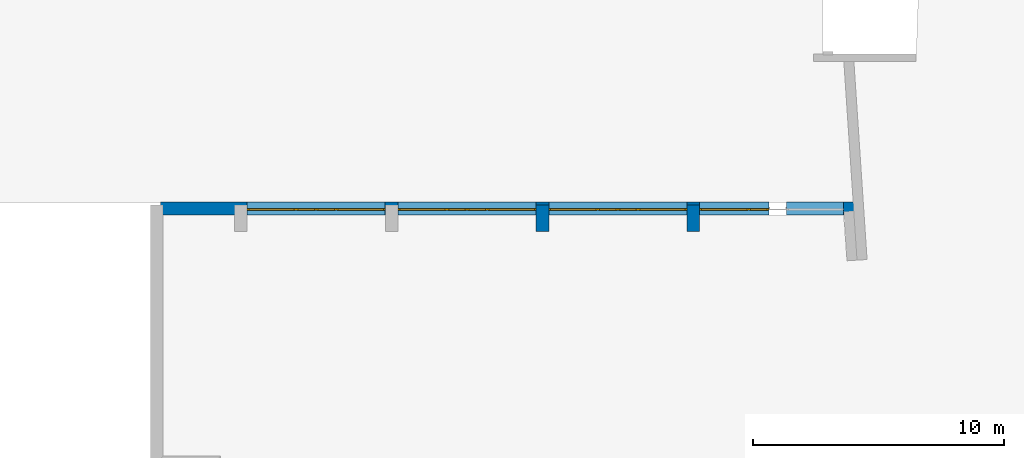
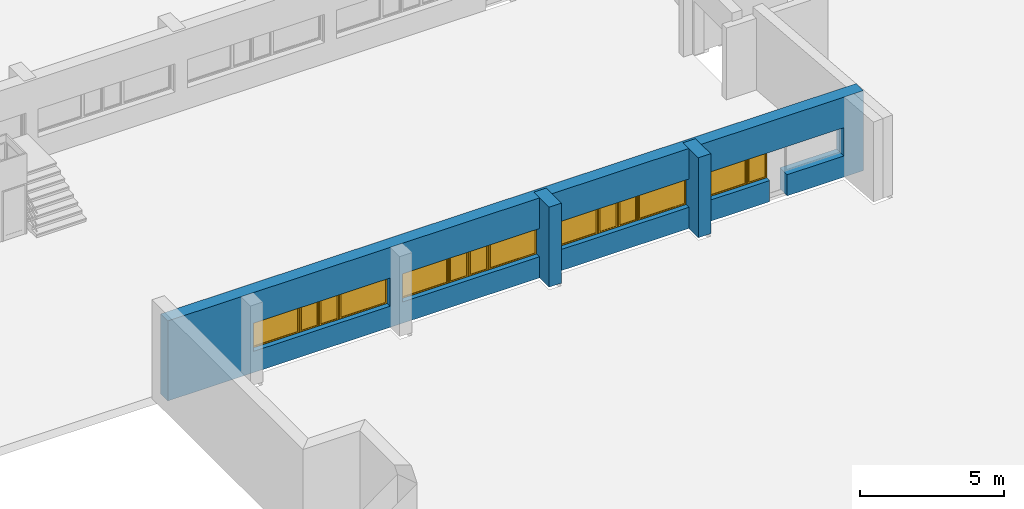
# One storey, part 12 of 36: 7 windows, 3 walls, 9 openings.
"""IFC2X3 building model written with IfcOpenShell, lengths in millimetres."""

import ifcopenshell
import ifcopenshell.guid

model = None  # the IFC model being written
_history = None  # IfcOwnerHistory: only IFC2X3 demands one
_inside = {}  # id of a spatial element -> (the spatial element, [elements in it])
_under = {}  # id of a project, library or spatial element -> (it, [spatial elements below it])
_declared = {}  # id of a project -> (the project, [libraries it declares])
_typed = {}  # id of a type object -> (the type object, [elements of that type])
_made_of = {}  # id of a material, layer set ... -> (it, [elements and type objects made of it])


def new_model(schema):
    """Start an empty IFC model of exactly this schema.

    Asked for "IFC4X3", IfcOpenShell would pick the latest addendum, in which some entities
    have other attributes; the version numbers below select the first issue.
    IFC2X3 requires an IfcOwnerHistory on every rooted entity: one is made here for all.
    """
    global model, _history
    if schema == "IFC4X3":
        model = ifcopenshell.file(schema_version=(4, 3, 0, 0))
    else:
        model = ifcopenshell.file(schema=schema)
    _inside.clear()
    _under.clear()
    _declared.clear()
    _typed.clear()
    _made_of.clear()
    _history = None
    if model.schema == "IFC2X3":
        org = make("IfcOrganization", Name="unknown")
        user = make(
            "IfcPersonAndOrganization",
            ThePerson=make("IfcPerson", FamilyName="unknown"),
            TheOrganization=org,
        )
        app = make(
            "IfcApplication",
            ApplicationDeveloper=org,
            Version="unknown",
            ApplicationFullName="unknown",
            ApplicationIdentifier="unknown",
        )
        _history = make(
            "IfcOwnerHistory",
            OwningUser=user,
            OwningApplication=app,
            ChangeAction="ADDED",
            CreationDate=0,
        )
    return model


def make(cls, **values):
    """One entity of the class cls with the attributes given. An attribute that is None is left unset."""
    return model.create_entity(
        cls, **{name: value for name, value in values.items() if value is not None}
    )


def entity(cls, *values):
    """Any entity or typed value of the class cls, its attributes in the order of the schema. None: left unset."""
    e = model.create_entity(cls)
    for i, value in enumerate(values):
        if value is not None:
            e[i] = value
    return e


def rooted(cls, **values):
    """An entity with a GlobalId (a new one), such as an element, a storey or a relation."""
    return make(cls, GlobalId=ifcopenshell.guid.new(), OwnerHistory=_history, **values)


def si_unit(unit_type, name, prefix=None):
    """IfcSIUnit, for example si_unit("LENGTHUNIT", "METRE", prefix="MILLI")."""
    return make("IfcSIUnit", UnitType=unit_type, Prefix=prefix, Name=name)


def converted_unit(unit_type, name, factor, base, dimensions=None, offset=None):
    """IfcConversionBasedUnit, such as the inch: factor (a typed value) times the base unit."""
    return make(
        "IfcConversionBasedUnit"
        if offset is None
        else "IfcConversionBasedUnitWithOffset",
        ConversionOffset=offset,
        Dimensions=None
        if dimensions is None
        else entity("IfcDimensionalExponents", *dimensions),
        UnitType=unit_type,
        Name=name,
        ConversionFactor=make(
            "IfcMeasureWithUnit", ValueComponent=factor, UnitComponent=base
        ),
    )


def money_unit(currency):
    """IfcMonetaryUnit."""
    return make("IfcMonetaryUnit", Currency=currency)


def assignment(units):
    """IfcUnitAssignment: the units of a project."""
    return None if units is None else make("IfcUnitAssignment", Units=units)


def point(xyz):
    """IfcCartesianPoint."""
    return None if xyz is None else make("IfcCartesianPoint", Coordinates=xyz)


def direction(xyz):
    """IfcDirection."""
    return None if xyz is None else make("IfcDirection", DirectionRatios=xyz)


def frame(location, z_axis=None, x_axis=None):
    """IfcAxis2Placement3D, a coordinate frame: its origin and axes. An axis left out is left unset."""
    return make(
        "IfcAxis2Placement3D",
        Location=point(location),
        Axis=direction(z_axis),
        RefDirection=direction(x_axis),
    )


def origin_with_axes():
    """The frame at (0, 0, 0) with the z axis (0, 0, 1) and the x axis (1, 0, 0) written out."""
    return frame((0.0, 0.0, 0.0), z_axis=(0.0, 0.0, 1.0), x_axis=(1.0, 0.0, 0.0))


def place(relative_to, where):
    """IfcLocalPlacement: puts the frame where relative to a parent placement (None: the world)."""
    return make(
        "IfcLocalPlacement", PlacementRelTo=relative_to, RelativePlacement=where
    )


def context(
    kind, dimensions, precision=None, world=None, true_north=None, identifier=None
):
    """IfcGeometricRepresentationContext, for example the 3D "Model" context."""
    return make(
        "IfcGeometricRepresentationContext",
        ContextIdentifier=identifier,
        ContextType=kind,
        CoordinateSpaceDimension=dimensions,
        Precision=precision,
        WorldCoordinateSystem=world,
        TrueNorth=true_north,
    )


def subcontext(parent, identifier, kind, view, scale=None):
    """IfcGeometricRepresentationSubContext, for example "Body" below "Model"."""
    return make(
        "IfcGeometricRepresentationSubContext",
        ContextIdentifier=identifier,
        ContextType=kind,
        ParentContext=parent,
        TargetScale=scale,
        TargetView=view,
    )


def project(units=None, contexts=None):
    """IfcProject with its units and contexts."""
    return rooted(
        "IfcProject",
        Name="project",
        RepresentationContexts=contexts,
        UnitsInContext=assignment(units),
    )


def spatial(cls, under=None, at=None, **own):
    """A site, building, storey or space (cls), placed at a placement, below another one or the project."""
    s = rooted(cls, ObjectPlacement=at, **own)
    if under is not None:
        _under.setdefault(under.id(), (under, []))[1].append(s)
    return s


def polyline(points):
    """IfcPolyline through the points."""
    return make("IfcPolyline", Points=[point(p) for p in points])


def outline(outer, holes=None, kind="AREA"):
    """IfcArbitraryClosedProfileDef: a profile drawn as a closed curve; with holes, ...WithVoids."""
    if holes is None:
        return make("IfcArbitraryClosedProfileDef", ProfileType=kind, OuterCurve=outer)
    return make(
        "IfcArbitraryProfileDefWithVoids",
        ProfileType=kind,
        OuterCurve=outer,
        InnerCurves=holes,
    )


def extrude(swept, where, along, depth):
    """IfcExtrudedAreaSolid: the profile swept, set in the frame where, extruded along a direction by depth."""
    return make(
        "IfcExtrudedAreaSolid",
        SweptArea=swept,
        Position=where,
        ExtrudedDirection=direction(along),
        Depth=depth,
    )


def faces_of(points, faces, orient=None, outer=None):
    """IfcFace entities. A face is a list of loops; a loop is a list of indices into points, from 0.

    orient and outer hold one flag for each loop. By default every Orientation is true, the
    first loop of a face is its IfcFaceOuterBound and the others are IfcFaceBound.
    """
    made = []
    for i, loops in enumerate(faces):
        bounds = []
        for j, loop in enumerate(loops):
            is_outer = j == 0 if outer is None else outer[i][j]
            bounds.append(
                make(
                    "IfcFaceOuterBound" if is_outer else "IfcFaceBound",
                    Bound=make("IfcPolyLoop", Polygon=[points[k] for k in loop]),
                    Orientation=True if orient is None else orient[i][j],
                )
            )
        made.append(make("IfcFace", Bounds=bounds))
    return made


def open_shell(faces, orient=None, outer=None):
    """The faces of one IfcOpenShell. surface_model builds it on its shared points."""
    return ("IfcOpenShell", faces, orient, outer)


def faceted_brep(points, faces, orient=None, outer=None, voids=None):
    """IfcFacetedBrep: a solid bounded by flat faces; with voids (closed shells), ...WithVoids."""
    shared = [point(p) for p in points]
    hull = make("IfcClosedShell", CfsFaces=faces_of(shared, faces, orient, outer))
    if voids is None:
        return make("IfcFacetedBrep", Outer=hull)
    return make(
        "IfcFacetedBrepWithVoids",
        Outer=hull,
        Voids=[
            make(cls, CfsFaces=faces_of(shared, fs, o, b)) for cls, fs, o, b in voids
        ],
    )


def surface_model(cls, points, shells):
    """IfcFaceBasedSurfaceModel or IfcShellBasedSurfaceModel (cls): surfaces that need not close."""
    shared = [point(p) for p in points]
    made = [make(c, CfsFaces=faces_of(shared, fs, o, b)) for c, fs, o, b in shells]
    if cls == "IfcFaceBasedSurfaceModel":
        return make(cls, FbsmFaces=made)
    return make(cls, SbsmBoundary=made)


def shape(context_of_items, identifier, shape_type, items):
    """IfcShapeRepresentation: the items that make up one representation, for example the "Body"."""
    return make(
        "IfcShapeRepresentation",
        ContextOfItems=context_of_items,
        RepresentationIdentifier=identifier,
        RepresentationType=shape_type,
        Items=items,
    )


def source(mapping_origin, context_of_items, identifier, shape_type, items):
    """IfcRepresentationMap: a shape defined once, which mapped items show again and again."""
    return make(
        "IfcRepresentationMap",
        MappingOrigin=mapping_origin,
        MappedRepresentation=shape(context_of_items, identifier, shape_type, items),
    )


def transform(
    local_origin,
    x_axis=None,
    y_axis=None,
    z_axis=None,
    scale=None,
    scale2=None,
    scale3=None,
    uniform=True,
):
    """IfcCartesianTransformationOperator3D, or its non-uniform kind. x_axis, y_axis, z_axis: its Axis1, 2, 3."""
    if uniform:
        return make(
            "IfcCartesianTransformationOperator3D",
            Axis1=direction(x_axis),
            Axis2=direction(y_axis),
            LocalOrigin=point(local_origin),
            Scale=scale,
            Axis3=direction(z_axis),
        )
    return make(
        "IfcCartesianTransformationOperator3DnonUniform",
        Axis1=direction(x_axis),
        Axis2=direction(y_axis),
        LocalOrigin=point(local_origin),
        Scale=scale,
        Axis3=direction(z_axis),
        Scale2=scale2,
        Scale3=scale3,
    )


def mapped(mapping_source, mapping_target):
    """IfcMappedItem: shows the shape of a source again, moved by a transform."""
    return make(
        "IfcMappedItem", MappingSource=mapping_source, MappingTarget=mapping_target
    )


def material(Name=None, Category=None):
    """IfcMaterial."""
    return make("IfcMaterial", Name=Name, Category=Category)


def material_list(materials):
    """IfcMaterialList."""
    return make("IfcMaterialList", Materials=materials)


def layer(
    of_material, thickness, ventilated=None, Name=None, Category=None, Priority=None
):
    """IfcMaterialLayer: one layer of a wall or slab, of a material (None: an air gap)."""
    return make(
        "IfcMaterialLayer",
        Material=of_material,
        LayerThickness=thickness,
        IsVentilated=ventilated,
        Name=Name,
        Category=Category,
        Priority=Priority,
    )


def layer_set(layers, Name=None):
    """IfcMaterialLayerSet."""
    return make("IfcMaterialLayerSet", MaterialLayers=layers, LayerSetName=Name)


def layer_usage(for_layer_set, set_direction, sense, offset, extent=None):
    """IfcMaterialLayerSetUsage: how a layer set lies in its element."""
    return make(
        "IfcMaterialLayerSetUsage",
        ForLayerSet=for_layer_set,
        LayerSetDirection=set_direction,
        DirectionSense=sense,
        OffsetFromReferenceLine=offset,
        ReferenceExtent=extent,
    )


def made_of(thing, what):
    """Note that an element or type object is made of a material, layer set ...; save() writes the relation."""
    if what is not None:
        _made_of.setdefault(what.id(), (what, []))[1].append(thing)
    return thing


def type_object(cls, material=None, **own):
    """A type object (cls), such as IfcWallType, which elements share."""
    return made_of(rooted(cls, **own), material)


def element(
    cls,
    number,
    at=None,
    inside=None,
    cuts=None,
    type_object=None,
    material=None,
    context=None,
    identifier="Body",
    shape_type=None,
    held_by="IfcProductDefinitionShape",
    body=None,
    shapes=None,
    **own,
):
    """One element of the class cls, such as IfcWall. Its Tag is "e" and its number.

    at: its placement. inside: the storey or other place that contains it. cuts: it is an
    opening in that element (IfcRelVoidsElement). A single representation is given by context,
    identifier, shape_type and body (its items); several are given by shapes. held_by: the class
    of the entity that holds the representations. save() writes the other relations.
    """
    e = rooted(cls, Tag="e%d" % number, ObjectPlacement=at, **own)
    if body is not None:
        shapes = [shape(context, identifier, shape_type, body)]
    if shapes is not None:
        e.Representation = make(held_by, Representations=shapes)
    if inside is not None:
        _inside.setdefault(inside.id(), (inside, []))[1].append(e)
    if cuts is not None:
        rooted(
            "IfcRelVoidsElement", RelatingBuildingElement=cuts, RelatedOpeningElement=e
        )
    if type_object is not None:
        _typed.setdefault(type_object.id(), (type_object, []))[1].append(e)
    return made_of(e, material)


def fill(opening, filler):
    """IfcRelFillsElement: the door or window that sits in an opening."""
    return rooted(
        "IfcRelFillsElement",
        RelatingOpeningElement=opening,
        RelatedBuildingElement=filler,
    )


def aggregate(whole, parts):
    """IfcRelAggregates: a whole, such as a stair, and the parts it consists of."""
    return rooted("IfcRelAggregates", RelatingObject=whole, RelatedObjects=parts)


def save(model, path):
    """Write the relations noted so far, then the file.

    IfcRelAggregates (storeys below a building ...), IfcRelContainedInSpatialStructure (elements
    in a storey), IfcRelDefinesByType, IfcRelAssociatesMaterial and IfcRelDeclares: one each for
    every whole, place, type object, material and project.
    """
    for whole, parts in _under.values():
        aggregate(whole, parts)
    for where, things in _inside.values():
        rooted(
            "IfcRelContainedInSpatialStructure",
            RelatedElements=things,
            RelatingStructure=where,
        )
    for kind, things in _typed.values():
        rooted("IfcRelDefinesByType", RelatedObjects=things, RelatingType=kind)
    for what, things in _made_of.values():
        rooted("IfcRelAssociatesMaterial", RelatedObjects=things, RelatingMaterial=what)
    for by, libraries in _declared.values():
        rooted("IfcRelDeclares", RelatingContext=by, RelatedDefinitions=libraries)
    model.write(path)


model = new_model("IFC2X3")

# Units and contexts
model_context = context("Model", 3, precision=1e-05, world=origin_with_axes(), true_north=direction((0.0, 1.0)))
body_context = subcontext(model_context, "Body", "Model", "MODEL_VIEW")
ifc_project = project(units=[si_unit("LENGTHUNIT", "METRE", prefix="MILLI"), si_unit("AREAUNIT", "SQUARE_METRE"), si_unit("VOLUMEUNIT", "CUBIC_METRE"), converted_unit("PLANEANGLEUNIT", "DEGREE", entity("IfcPlaneAngleMeasure", 0.0174532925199), si_unit("PLANEANGLEUNIT", "RADIAN"), dimensions=[0, 0, 0, 0, 0, 0, 0]), si_unit("SOLIDANGLEUNIT", "STERADIAN"), money_unit("USD"), converted_unit("TIMEUNIT", "Year", entity("IfcTimeMeasure", 31556926.0), si_unit("TIMEUNIT", "SECOND"), dimensions=[0, 0, 0, 0, 0, 0, 0]), si_unit("MASSUNIT", "GRAM"), si_unit("THERMODYNAMICTEMPERATUREUNIT", "DEGREE_CELSIUS"), si_unit("LUMINOUSINTENSITYUNIT", "LUMEN")], contexts=[model_context])

# Site, building, storey
site_placement = place(None, origin_with_axes())
site = spatial("IfcSite", under=ifc_project, at=site_placement, Name="Site", CompositionType="ELEMENT")
building_placement = place(site_placement, origin_with_axes())
building = spatial("IfcBuilding", under=site, at=building_placement, Name="Building", CompositionType="ELEMENT")
storey_placement = place(building_placement, frame((0.0, 0.0, -3400.0), z_axis=(0.0, 0.0, 1.0), x_axis=(1.0, 0.0, 0.0)))
storey = spatial("IfcBuildingStorey", under=building, at=storey_placement, Name="1KORRUS", CompositionType="ELEMENT", Elevation=-3400.0)

# Wall, openings, windows
ifc_material_1 = material(Name="Olemasolevad seinad tellis, uus viimistlus")
ifc_layer = layer(ifc_material_1, 500.0, ventilated="UNKNOWN")
ifc_layer_set = layer_set([ifc_layer], Name="Olemasolevad seinad tellis, uus viimistlus 500")
ifc_layer_usage_1 = layer_usage(ifc_layer_set, "AXIS2", "POSITIVE", -400.0)
wall_type = type_object("IfcWallType", Name="Olemasolevad seinad tellis, uus viimistlus 500", PredefinedType="NOTDEFINED")
wall_1_placement = place(storey_placement, frame((-9331.84569337, -19738.87569, 0.0), z_axis=(0.0, 0.0, 1.0), x_axis=(1.0, 0.0, 0.0)))
wall_1 = element("IfcWallStandardCase", 1, at=wall_1_placement, inside=storey, type_object=wall_type, material=ifc_layer_usage_1, Name="VS1", ObjectType="VS1", context=body_context, shape_type="SweptSolid", body=[
    extrude(outline(polyline([(0.0, -400.0), (27956.8716013, -400.0), (27956.8716013, 100.0), (0.0, 100.0), (0.0, -400.0)])), origin_with_axes(), (0.0, 0.0, 1.0), 3400.0),
])
opening_1_placement = place(wall_1_placement, frame((19566.5489901, 0.0, 900.0), z_axis=(0.0, 0.0, 1.0), x_axis=(1.0, 0.0, 0.0)))
opening_1 = element("IfcOpeningElement", 2, at=opening_1_placement, cuts=wall_1, Name="Olemasolevad aknad jäävad", context=body_context, shape_type="SweptSolid", body=[
    extrude(outline(polyline([(-1375.0, 1200.0), (-1375.0, 0.0), (1375.0, 0.0), (1375.0, 1200.0), (-1375.0, 1200.0)])), frame((0.0, -200.0, 0.0), z_axis=(0.0, 1.0, 0.0), x_axis=(-1.0, 0.0, 0.0)), (0.0, 0.0, 1.0), 800.0),
    extrude(outline(polyline([(-1375.0, 0.0), (-1375.0, -1200.0), (1375.0, -1200.0), (1375.0, 0.0), (-1375.0, 0.0)])), frame((0.0, -200.0, 0.0), z_axis=(0.0, -1.0, 0.0), x_axis=(-1.0, 0.0, 0.0)), (0.0, 0.0, 1.0), 700.0),
])
opening_2_placement = place(wall_1_placement, frame((16816.5489901, 0.0, 900.0), z_axis=(0.0, 0.0, 1.0), x_axis=(1.0, 0.0, 0.0)))
opening_2 = element("IfcOpeningElement", 3, at=opening_2_placement, cuts=wall_1, Name="Olemasolevad aknad jäävad", context=body_context, shape_type="SweptSolid", body=[
    extrude(outline(polyline([(1375.0, 1200.0), (-1375.0, 1200.0), (-1375.0, 0.0), (1375.0, 0.0), (1375.0, 1200.0)])), frame((0.0, -200.0, 0.0), z_axis=(0.0, 1.0, 0.0), x_axis=(-1.0, 0.0, 0.0)), (0.0, 0.0, 1.0), 800.0),
    extrude(outline(polyline([(1375.0, 0.0), (-1375.0, 0.0), (-1375.0, -1200.0), (1375.0, -1200.0), (1375.0, 0.0)])), frame((0.0, -200.0, 0.0), z_axis=(0.0, -1.0, 0.0), x_axis=(-1.0, 0.0, 0.0)), (0.0, 0.0, 1.0), 700.0),
])
opening_3_placement = place(wall_1_placement, frame((13566.5489901, 0.0, 900.0), z_axis=(0.0, 0.0, 1.0), x_axis=(1.0, 0.0, 0.0)))
opening_3 = element("IfcOpeningElement", 4, at=opening_3_placement, cuts=wall_1, Name="Olemasolevad aknad jäävad", context=body_context, shape_type="SweptSolid", body=[
    extrude(outline(polyline([(-1375.0, 1200.0), (-1375.0, 0.0), (1375.0, 0.0), (1375.0, 1200.0), (-1375.0, 1200.0)])), frame((0.0, -200.0, 0.0), z_axis=(0.0, 1.0, 0.0), x_axis=(-1.0, 0.0, 0.0)), (0.0, 0.0, 1.0), 800.0),
    extrude(outline(polyline([(-1375.0, 0.0), (-1375.0, -1200.0), (1375.0, -1200.0), (1375.0, 0.0), (-1375.0, 0.0)])), frame((0.0, -200.0, 0.0), z_axis=(0.0, -1.0, 0.0), x_axis=(-1.0, 0.0, 0.0)), (0.0, 0.0, 1.0), 700.0),
])
opening_4_placement = place(wall_1_placement, frame((10816.5489901, 0.0, 900.0), z_axis=(0.0, 0.0, 1.0), x_axis=(1.0, 0.0, 0.0)))
opening_4 = element("IfcOpeningElement", 5, at=opening_4_placement, cuts=wall_1, Name="Olemasolevad aknad jäävad", context=body_context, shape_type="SweptSolid", body=[
    extrude(outline(polyline([(1375.0, 1200.0), (-1375.0, 1200.0), (-1375.0, 0.0), (1375.0, 0.0), (1375.0, 1200.0)])), frame((0.0, -200.0, 0.0), z_axis=(0.0, 1.0, 0.0), x_axis=(-1.0, 0.0, 0.0)), (0.0, 0.0, 1.0), 800.0),
    extrude(outline(polyline([(1375.0, 0.0), (-1375.0, 0.0), (-1375.0, -1200.0), (1375.0, -1200.0), (1375.0, 0.0)])), frame((0.0, -200.0, 0.0), z_axis=(0.0, -1.0, 0.0), x_axis=(-1.0, 0.0, 0.0)), (0.0, 0.0, 1.0), 700.0),
])
opening_5_placement = place(wall_1_placement, frame((7558.41773708, 0.0, 900.0), z_axis=(0.0, 0.0, 1.0), x_axis=(1.0, 0.0, 0.0)))
opening_5 = element("IfcOpeningElement", 6, at=opening_5_placement, cuts=wall_1, Name="Olemasolevad aknad jäävad", context=body_context, shape_type="SweptSolid", body=[
    extrude(outline(polyline([(-1375.0, 1200.0), (-1375.0, 0.0), (1375.0, 0.0), (1375.0, 1200.0), (-1375.0, 1200.0)])), frame((0.0, -200.0, 0.0), z_axis=(0.0, 1.0, 0.0), x_axis=(-1.0, 0.0, 0.0)), (0.0, 0.0, 1.0), 800.0),
    extrude(outline(polyline([(-1375.0, 0.0), (-1375.0, -1200.0), (1375.0, -1200.0), (1375.0, 0.0), (-1375.0, 0.0)])), frame((0.0, -200.0, 0.0), z_axis=(0.0, -1.0, 0.0), x_axis=(-1.0, 0.0, 0.0)), (0.0, 0.0, 1.0), 700.0),
])
opening_6_placement = place(wall_1_placement, frame((4816.54899006, 0.0, 900.0), z_axis=(0.0, 0.0, 1.0), x_axis=(1.0, 0.0, 0.0)))
opening_6 = element("IfcOpeningElement", 7, at=opening_6_placement, cuts=wall_1, Name="Olemasolevad aknad jäävad", context=body_context, shape_type="SweptSolid", body=[
    extrude(outline(polyline([(1375.0, 1200.0), (-1375.0, 1200.0), (-1375.0, 0.0), (1375.0, 0.0), (1375.0, 1200.0)])), frame((0.0, -200.0, 0.0), z_axis=(0.0, 1.0, 0.0), x_axis=(-1.0, 0.0, 0.0)), (0.0, 0.0, 1.0), 800.0),
    extrude(outline(polyline([(1375.0, 0.0), (-1375.0, 0.0), (-1375.0, -1200.0), (1375.0, -1200.0), (1375.0, 0.0)])), frame((0.0, -200.0, 0.0), z_axis=(0.0, -1.0, 0.0), x_axis=(-1.0, 0.0, 0.0)), (0.0, 0.0, 1.0), 700.0),
])
opening_7_placement = place(wall_1_placement, frame((22816.5489901, 0.0, 900.0), z_axis=(0.0, 0.0, 1.0), x_axis=(1.0, 0.0, 0.0)))
opening_7 = element("IfcOpeningElement", 8, at=opening_7_placement, cuts=wall_1, Name="Olemasolevad aknad jäävad", context=body_context, shape_type="SweptSolid", body=[
    extrude(outline(polyline([(1375.0, 1200.0), (-1375.0, 1200.0), (-1375.0, 0.0), (1375.0, 0.0), (1375.0, 1200.0)])), frame((0.0, -200.0, 0.0), z_axis=(0.0, 1.0, 0.0), x_axis=(-1.0, 0.0, 0.0)), (0.0, 0.0, 1.0), 800.0),
    extrude(outline(polyline([(1375.0, 0.0), (-1375.0, 0.0), (-1375.0, -1200.0), (1375.0, -1200.0), (1375.0, 0.0)])), frame((0.0, -200.0, 0.0), z_axis=(0.0, -1.0, 0.0), x_axis=(-1.0, 0.0, 0.0)), (0.0, 0.0, 1.0), 700.0),
])
opening_8_placement = place(wall_1_placement, frame((26032.4269663, 0.0, 900.0), z_axis=(0.0, 0.0, 1.0), x_axis=(1.0, 0.0, 0.0)))
element("IfcOpeningElement", 9, at=opening_8_placement, cuts=wall_1, Name="Olemasolevad aknad jäävad", context=body_context, shape_type="SweptSolid", body=[
    extrude(outline(polyline([(1140.806, 1200.0), (-1140.806, 1200.0), (-1140.806, 0.0), (1140.806, 0.0), (1140.806, 1200.0)])), frame((0.0, -200.0, 0.0), z_axis=(0.0, 1.0, 0.0), x_axis=(-1.0, 0.0, 0.0)), (0.0, 0.0, 1.0), 800.0),
    extrude(outline(polyline([(1140.806, 0.0), (-1140.806, 0.0), (-1140.806, -1200.0), (1140.806, -1200.0), (1140.806, 0.0)])), frame((0.0, -200.0, 0.0), z_axis=(0.0, -1.0, 0.0), x_axis=(-1.0, 0.0, 0.0)), (0.0, 0.0, 1.0), 700.0),
])
opening_9_placement = place(wall_1_placement, frame((24541.5489901, 0.0, -4.66441168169), z_axis=(0.0, 0.0, 1.0), x_axis=(1.0, 0.0, 0.0)))
element("IfcOpeningElement", 10, at=opening_9_placement, cuts=wall_1, Name="ava", context=body_context, shape_type="SweptSolid", body=[
    extrude(outline(polyline([(-350.0, 2100.0), (-350.0, 0.0), (350.0, 0.0), (350.0, 2100.0), (-350.0, 2100.0)])), frame((0.0, -200.0, 0.0), z_axis=(0.0, 1.0, 0.0), x_axis=(-1.0, 0.0, 0.0)), (0.0, 0.0, 1.0), 800.0),
    extrude(outline(polyline([(-350.0, 0.0), (-350.0, -2100.0), (350.0, -2100.0), (350.0, 0.0), (-350.0, 0.0)])), frame((0.0, -200.0, 0.0), z_axis=(0.0, -1.0, 0.0), x_axis=(-1.0, 0.0, 0.0)), (0.0, 0.0, 1.0), 700.0),
])
ifc_material_2 = material(Name="Background")
ifc_material_list = material_list([ifc_material_2])
window_style_1 = type_object("IfcWindowStyle", Name="Double Window 19", ConstructionType="NOTDEFINED", OperationType="DOUBLE_PANEL_VERTICAL", ParameterTakesPrecedence=False, Sizeable=False)
shared_shape_1 = source(origin_with_axes(), body_context, "Body", "SurfaceModel", [
    faceted_brep([(-1350.0, -200.0, 1150.0), (-1375.0, -200.0, 1150.0), (-1375.0, -250.0, 1150.0), (-1325.0, -250.0, 1150.0), (-1325.0, -225.0, 1150.0), (-1350.0, -225.0, 1150.0), (-1350.0, -200.0, 50.0), (-1375.0, -200.0, 50.0), (-1375.0, -250.0, 50.0), (-1325.0, -250.0, 50.0), (-1325.0, -225.0, 50.0), (-1350.0, -225.0, 50.0)], [[[0, 1, 2, 3, 4, 5]], [[6, 7, 1, 0]], [[1, 7, 8, 2]], [[2, 8, 9, 3]], [[4, 3, 9, 10]], [[10, 11, 5, 4]], [[5, 11, 6, 0]], [[11, 10, 9, 8, 7, 6]]]),
    faceted_brep([(1325.0, -225.0, 1150.0), (1325.0, -250.0, 1150.0), (1375.0, -250.0, 1150.0), (1375.0, -200.0, 1150.0), (1350.0, -200.0, 1150.0), (1350.0, -225.0, 1150.0), (1325.0, -225.0, 50.0), (1325.0, -250.0, 50.0), (1375.0, -250.0, 50.0), (1375.0, -200.0, 50.0), (1350.0, -200.0, 50.0), (1350.0, -225.0, 50.0)], [[[0, 1, 2, 3, 4, 5]], [[6, 7, 1, 0]], [[8, 2, 1, 7]], [[9, 3, 2, 8]], [[4, 3, 9, 10]], [[10, 11, 5, 4]], [[5, 11, 6, 0]], [[11, 10, 9, 8, 7, 6]]]),
    faceted_brep([(525.0, -225.0, 1150.0), (525.0, -250.0, 1150.0), (625.0, -250.0, 1150.0), (625.0, -225.0, 1150.0), (600.0, -225.0, 1150.0), (600.0, -200.0, 1150.0), (550.0, -200.0, 1150.0), (550.0, -225.0, 1150.0), (525.0, -225.0, 50.0), (525.0, -250.0, 50.0), (625.0, -250.0, 50.0), (625.0, -225.0, 50.0), (600.0, -225.0, 50.0), (600.0, -200.0, 50.0), (550.0, -200.0, 50.0), (550.0, -225.0, 50.0)], [[[0, 1, 2, 3, 4, 5, 6, 7]], [[8, 9, 1, 0]], [[10, 2, 1, 9]], [[3, 2, 10, 11]], [[11, 12, 4, 3]], [[4, 12, 13, 5]], [[6, 5, 13, 14]], [[14, 15, 7, 6]], [[7, 15, 8, 0]], [[15, 14, 13, 12, 11, 10, 9, 8]]]),
    faceted_brep([(525.0, -225.0, 50.0), (525.0, -250.0, 50.0), (625.0, -250.0, 50.0), (625.0, -225.0, 50.0), (600.0, -225.0, 50.0), (600.0, -200.0, 50.0), (550.0, -200.0, 50.0), (550.0, -225.0, 50.0), (-1325.0, -225.0, 50.0), (-1325.0, -250.0, 50.0), (-1375.0, -250.0, 50.0), (-1375.0, -250.0, 0.0), (1375.0, -250.0, 0.0), (1375.0, -250.0, 50.0), (1325.0, -250.0, 50.0), (1325.0, -225.0, 50.0), (1350.0, -225.0, 50.0), (1350.0, -225.0, 25.0), (600.0, -225.0, 25.0), (600.0, -200.0, 25.0), (-1350.0, -200.0, 25.0), (550.0, -200.0, 25.0), (1350.0, -200.0, 25.0), (1350.0, -200.0, 50.0), (1375.0, -200.0, 50.0), (1375.0, -200.0, 0.0), (-1375.0, -200.0, 0.0), (-1375.0, -200.0, 50.0), (-1350.0, -200.0, 50.0), (550.0, -225.0, 25.0), (-1350.0, -225.0, 25.0), (-1350.0, -225.0, 50.0)], [[[0, 1, 2, 3, 4, 5, 6, 7]], [[8, 9, 1, 0]], [[10, 11, 12, 13, 14, 2, 1, 9]], [[3, 2, 14, 15]], [[16, 17, 18, 4, 3, 15]], [[4, 18, 19, 5]], [[20, 21, 6, 5, 19, 22, 23, 24, 25, 26, 27, 28]], [[21, 29, 7, 6]], [[7, 29, 30, 31, 8, 0]], [[31, 28, 27, 10, 9, 8]], [[27, 26, 11, 10]], [[26, 25, 12, 11]], [[25, 24, 13, 12]], [[15, 14, 13, 24, 23, 16]], [[22, 17, 16, 23]], [[19, 18, 17, 22]], [[20, 30, 29, 21]], [[31, 30, 20, 28]]]),
    faceted_brep([(-1350.0, -200.0, 1150.0), (-1375.0, -200.0, 1150.0), (-1375.0, -200.0, 1200.0), (1375.0, -200.0, 1200.0), (1375.0, -200.0, 1150.0), (1350.0, -200.0, 1150.0), (1350.0, -200.0, 1175.0), (600.0, -200.0, 1175.0), (600.0, -200.0, 1150.0), (550.0, -200.0, 1150.0), (550.0, -200.0, 1175.0), (-1350.0, -200.0, 1175.0), (-1350.0, -225.0, 1150.0), (-1325.0, -225.0, 1150.0), (-1325.0, -250.0, 1150.0), (-1375.0, -250.0, 1150.0), (-1375.0, -250.0, 1200.0), (1375.0, -250.0, 1200.0), (1375.0, -250.0, 1150.0), (1350.0, -225.0, 1150.0), (1325.0, -250.0, 1150.0), (1325.0, -225.0, 1150.0), (1350.0, -225.0, 1175.0), (600.0, -225.0, 1175.0), (600.0, -225.0, 1150.0), (550.0, -225.0, 1150.0), (625.0, -225.0, 1150.0), (625.0, -250.0, 1150.0), (525.0, -250.0, 1150.0), (525.0, -225.0, 1150.0), (550.0, -225.0, 1175.0), (-1350.0, -225.0, 1175.0)], [[[0, 1, 2, 3, 4, 5, 6, 7, 8, 9, 10, 11]], [[12, 13, 14, 15, 1, 0]], [[2, 1, 15, 16]], [[3, 2, 16, 17]], [[4, 3, 17, 18]], [[19, 5, 4, 18, 20, 21]], [[5, 19, 22, 6]], [[6, 22, 23, 7]], [[7, 23, 24, 8]], [[25, 9, 8, 24, 26, 27, 28, 29]], [[9, 25, 30, 10]], [[10, 30, 31, 11]], [[11, 31, 12, 0]], [[29, 13, 12, 31, 30, 25]], [[29, 28, 14, 13]], [[27, 20, 18, 17, 16, 15, 14, 28]], [[21, 20, 27, 26]], [[21, 26, 24, 23, 22, 19]]]),
    faceted_brep([(-1300.0, -225.0, 1125.0), (-1300.0, -175.0, 1125.0), (-1350.0, -175.0, 1125.0), (-1350.0, -225.0, 1125.0), (-1300.0, -225.0, 75.0), (-1300.0, -175.0, 75.0), (-1350.0, -175.0, 75.0), (-1350.0, -225.0, 75.0)], [[[0, 1, 2, 3]], [[4, 5, 1, 0]], [[1, 5, 6, 2]], [[3, 2, 6, 7]], [[0, 3, 7, 4]], [[7, 6, 5, 4]]]),
    faceted_brep([(500.0, -225.0, 75.0), (500.0, -175.0, 75.0), (550.0, -175.0, 75.0), (550.0, -225.0, 75.0), (500.0, -225.0, 1125.0), (500.0, -175.0, 1125.0), (550.0, -175.0, 1125.0), (550.0, -225.0, 1125.0)], [[[0, 1, 2, 3]], [[4, 5, 1, 0]], [[1, 5, 6, 2]], [[3, 2, 6, 7]], [[0, 3, 7, 4]], [[7, 6, 5, 4]]]),
    faceted_brep([(550.0, -225.0, 25.0), (550.0, -175.0, 25.0), (550.0, -175.0, 75.0), (550.0, -225.0, 75.0), (-1350.0, -225.0, 25.0), (-1350.0, -175.0, 25.0), (-1350.0, -175.0, 75.0), (-1300.0, -175.0, 75.0), (500.0, -175.0, 75.0), (500.0, -225.0, 75.0), (-1300.0, -225.0, 75.0), (-1350.0, -225.0, 75.0)], [[[0, 1, 2, 3]], [[4, 5, 1, 0]], [[1, 5, 6, 7, 8, 2]], [[3, 2, 8, 9]], [[0, 3, 9, 10, 11, 4]], [[11, 6, 5, 4]], [[10, 7, 6, 11]], [[9, 8, 7, 10]]]),
    faceted_brep([(-1350.0, -225.0, 1175.0), (-1350.0, -175.0, 1175.0), (-1350.0, -175.0, 1125.0), (-1350.0, -225.0, 1125.0), (550.0, -225.0, 1175.0), (550.0, -175.0, 1175.0), (550.0, -175.0, 1125.0), (500.0, -175.0, 1125.0), (-1300.0, -175.0, 1125.0), (-1300.0, -225.0, 1125.0), (500.0, -225.0, 1125.0), (550.0, -225.0, 1125.0)], [[[0, 1, 2, 3]], [[4, 5, 1, 0]], [[1, 5, 6, 7, 8, 2]], [[3, 2, 8, 9]], [[0, 3, 9, 10, 11, 4]], [[11, 6, 5, 4]], [[10, 7, 6, 11]], [[9, 8, 7, 10]]]),
    surface_model("IfcShellBasedSurfaceModel", [(-1300.0, -210.0, 75.0), (500.0, -210.0, 75.0), (500.0, -210.0, 1125.0), (-1300.0, -210.0, 1125.0)], [open_shell([[[0, 1, 2, 3]]])]),
    surface_model("IfcShellBasedSurfaceModel", [(-1300.0, -190.0, 75.0), (-1300.0, -190.0, 1125.0), (500.0, -190.0, 1125.0), (500.0, -190.0, 75.0)], [open_shell([[[0, 1, 2, 3]]])]),
    faceted_brep([(650.0, -225.0, 1125.0), (650.0, -175.0, 1125.0), (600.0, -175.0, 1125.0), (600.0, -225.0, 1125.0), (650.0, -225.0, 75.0), (650.0, -175.0, 75.0), (600.0, -175.0, 75.0), (600.0, -225.0, 75.0)], [[[0, 1, 2, 3]], [[4, 5, 1, 0]], [[1, 5, 6, 2]], [[3, 2, 6, 7]], [[0, 3, 7, 4]], [[7, 6, 5, 4]]]),
    faceted_brep([(1300.0, -225.0, 75.0), (1300.0, -175.0, 75.0), (1350.0, -175.0, 75.0), (1350.0, -225.0, 75.0), (1300.0, -225.0, 1125.0), (1300.0, -175.0, 1125.0), (1350.0, -175.0, 1125.0), (1350.0, -225.0, 1125.0)], [[[0, 1, 2, 3]], [[4, 5, 1, 0]], [[1, 5, 6, 2]], [[3, 2, 6, 7]], [[0, 3, 7, 4]], [[7, 6, 5, 4]]]),
    faceted_brep([(1350.0, -225.0, 25.0), (1350.0, -175.0, 25.0), (1350.0, -175.0, 75.0), (1350.0, -225.0, 75.0), (600.0, -225.0, 25.0), (600.0, -175.0, 25.0), (600.0, -175.0, 75.0), (650.0, -175.0, 75.0), (1300.0, -175.0, 75.0), (1300.0, -225.0, 75.0), (650.0, -225.0, 75.0), (600.0, -225.0, 75.0)], [[[0, 1, 2, 3]], [[4, 5, 1, 0]], [[1, 5, 6, 7, 8, 2]], [[3, 2, 8, 9]], [[0, 3, 9, 10, 11, 4]], [[11, 6, 5, 4]], [[10, 7, 6, 11]], [[9, 8, 7, 10]]]),
    faceted_brep([(600.0, -225.0, 1175.0), (600.0, -175.0, 1175.0), (600.0, -175.0, 1125.0), (600.0, -225.0, 1125.0), (1350.0, -225.0, 1175.0), (1350.0, -175.0, 1175.0), (1350.0, -175.0, 1125.0), (1300.0, -175.0, 1125.0), (650.0, -175.0, 1125.0), (650.0, -225.0, 1125.0), (1300.0, -225.0, 1125.0), (1350.0, -225.0, 1125.0)], [[[0, 1, 2, 3]], [[4, 5, 1, 0]], [[1, 5, 6, 7, 8, 2]], [[3, 2, 8, 9]], [[0, 3, 9, 10, 11, 4]], [[11, 6, 5, 4]], [[10, 7, 6, 11]], [[9, 8, 7, 10]]]),
    surface_model("IfcShellBasedSurfaceModel", [(650.0, -210.0, 75.0), (1300.0, -210.0, 75.0), (1300.0, -210.0, 1125.0), (650.0, -210.0, 1125.0)], [open_shell([[[0, 1, 2, 3]]])]),
    surface_model("IfcShellBasedSurfaceModel", [(650.0, -190.0, 75.0), (650.0, -190.0, 1125.0), (1300.0, -190.0, 1125.0), (1300.0, -190.0, 75.0)], [open_shell([[[0, 1, 2, 3]]])]),
])
window_1_placement = place(opening_1_placement, frame((1375.0, 0.0, 0.0), z_axis=(0.0, 0.0, 1.0), x_axis=(-1.0, 0.0, 0.0)))
window_1 = element("IfcWindow", 11, at=window_1_placement, inside=storey, type_object=window_style_1, material=ifc_material_list, Name="Olemasolevad aknad jäävad", ObjectType="Olemasolevad aknad jäävad", OverallHeight=1200.0, OverallWidth=2750.0, context=body_context, shape_type="MappedRepresentation", body=[
    mapped(shared_shape_1, transform((1375.0, 400.0, 0.0))),
])
fill(opening_1, window_1)
window_2_placement = place(opening_3_placement, frame((1375.0, 0.0, 0.0), z_axis=(0.0, 0.0, 1.0), x_axis=(-1.0, 0.0, 0.0)))
window_2 = element("IfcWindow", 12, at=window_2_placement, inside=storey, type_object=window_style_1, material=ifc_material_list, Name="Olemasolevad aknad jäävad", ObjectType="Olemasolevad aknad jäävad", OverallHeight=1200.0, OverallWidth=2750.0, context=body_context, shape_type="MappedRepresentation", body=[
    mapped(shared_shape_1, transform((1375.0, 400.0, 0.0))),
])
fill(opening_3, window_2)
window_3_placement = place(opening_5_placement, frame((1375.0, 0.0, 0.0), z_axis=(0.0, 0.0, 1.0), x_axis=(-1.0, 0.0, 0.0)))
window_3 = element("IfcWindow", 13, at=window_3_placement, inside=storey, type_object=window_style_1, material=ifc_material_list, Name="Olemasolevad aknad jäävad", ObjectType="Olemasolevad aknad jäävad", OverallHeight=1200.0, OverallWidth=2750.0, context=body_context, shape_type="MappedRepresentation", body=[
    mapped(shared_shape_1, transform((1375.0, 400.0, 0.0))),
])
fill(opening_5, window_3)
window_style_2 = type_object("IfcWindowStyle", Name="Double Window 19", ConstructionType="NOTDEFINED", OperationType="DOUBLE_PANEL_VERTICAL", ParameterTakesPrecedence=False, Sizeable=False)
shared_shape_2 = source(origin_with_axes(), body_context, "Body", "SurfaceModel", [
    faceted_brep([(1350.0, -200.0, 1150.0), (1350.0, -225.0, 1150.0), (1325.0, -225.0, 1150.0), (1325.0, -250.0, 1150.0), (1375.0, -250.0, 1150.0), (1375.0, -200.0, 1150.0), (1350.0, -200.0, 50.0), (1350.0, -225.0, 50.0), (1325.0, -225.0, 50.0), (1325.0, -250.0, 50.0), (1375.0, -250.0, 50.0), (1375.0, -200.0, 50.0)], [[[0, 1, 2, 3, 4, 5]], [[1, 0, 6, 7]], [[8, 2, 1, 7]], [[2, 8, 9, 3]], [[4, 3, 9, 10]], [[5, 4, 10, 11]], [[6, 0, 5, 11]], [[7, 6, 11, 10, 9, 8]]]),
    faceted_brep([(-1325.0, -225.0, 1150.0), (-1350.0, -225.0, 1150.0), (-1350.0, -200.0, 1150.0), (-1375.0, -200.0, 1150.0), (-1375.0, -250.0, 1150.0), (-1325.0, -250.0, 1150.0), (-1325.0, -225.0, 50.0), (-1350.0, -225.0, 50.0), (-1350.0, -200.0, 50.0), (-1375.0, -200.0, 50.0), (-1375.0, -250.0, 50.0), (-1325.0, -250.0, 50.0)], [[[0, 1, 2, 3, 4, 5]], [[1, 0, 6, 7]], [[8, 2, 1, 7]], [[2, 8, 9, 3]], [[9, 10, 4, 3]], [[10, 11, 5, 4]], [[6, 0, 5, 11]], [[7, 6, 11, 10, 9, 8]]]),
    faceted_brep([(-525.0, -225.0, 1150.0), (-550.0, -225.0, 1150.0), (-550.0, -200.0, 1150.0), (-600.0, -200.0, 1150.0), (-600.0, -225.0, 1150.0), (-625.0, -225.0, 1150.0), (-625.0, -250.0, 1150.0), (-525.0, -250.0, 1150.0), (-525.0, -225.0, 50.0), (-550.0, -225.0, 50.0), (-550.0, -200.0, 50.0), (-600.0, -200.0, 50.0), (-600.0, -225.0, 50.0), (-625.0, -225.0, 50.0), (-625.0, -250.0, 50.0), (-525.0, -250.0, 50.0)], [[[0, 1, 2, 3, 4, 5, 6, 7]], [[1, 0, 8, 9]], [[10, 2, 1, 9]], [[2, 10, 11, 3]], [[4, 3, 11, 12]], [[13, 5, 4, 12]], [[5, 13, 14, 6]], [[14, 15, 7, 6]], [[8, 0, 7, 15]], [[9, 8, 15, 14, 13, 12, 11, 10]]]),
    faceted_brep([(-525.0, -225.0, 50.0), (-550.0, -225.0, 50.0), (-550.0, -200.0, 50.0), (-600.0, -200.0, 50.0), (-600.0, -225.0, 50.0), (-625.0, -225.0, 50.0), (-625.0, -250.0, 50.0), (-525.0, -250.0, 50.0), (1325.0, -225.0, 50.0), (1350.0, -225.0, 50.0), (1350.0, -225.0, 25.0), (-550.0, -225.0, 25.0), (-550.0, -200.0, 25.0), (1350.0, -200.0, 25.0), (1350.0, -200.0, 50.0), (1375.0, -200.0, 50.0), (1375.0, -200.0, 0.0), (-1375.0, -200.0, 0.0), (-1375.0, -200.0, 50.0), (-1350.0, -200.0, 50.0), (-1350.0, -200.0, 25.0), (-600.0, -200.0, 25.0), (-600.0, -225.0, 25.0), (-1350.0, -225.0, 50.0), (-1325.0, -225.0, 50.0), (-1350.0, -225.0, 25.0), (-1325.0, -250.0, 50.0), (1375.0, -250.0, 50.0), (1325.0, -250.0, 50.0), (-1375.0, -250.0, 50.0), (-1375.0, -250.0, 0.0), (1375.0, -250.0, 0.0)], [[[0, 1, 2, 3, 4, 5, 6, 7]], [[1, 0, 8, 9, 10, 11]], [[12, 2, 1, 11]], [[13, 14, 15, 16, 17, 18, 19, 20, 21, 3, 2, 12]], [[4, 3, 21, 22]], [[23, 24, 5, 4, 22, 25]], [[5, 24, 26, 6]], [[27, 28, 7, 6, 26, 29, 30, 31]], [[8, 0, 7, 28]], [[9, 8, 28, 27, 15, 14]], [[9, 14, 13, 10]], [[13, 12, 11, 10]], [[15, 27, 31, 16]], [[16, 31, 30, 17]], [[17, 30, 29, 18]], [[24, 23, 19, 18, 29, 26]], [[20, 19, 23, 25]], [[21, 20, 25, 22]]]),
    faceted_brep([(1350.0, -200.0, 1150.0), (1350.0, -200.0, 1175.0), (-550.0, -200.0, 1175.0), (-550.0, -200.0, 1150.0), (-600.0, -200.0, 1150.0), (-600.0, -200.0, 1175.0), (-1350.0, -200.0, 1175.0), (-1350.0, -200.0, 1150.0), (-1375.0, -200.0, 1150.0), (-1375.0, -200.0, 1200.0), (1375.0, -200.0, 1200.0), (1375.0, -200.0, 1150.0), (1350.0, -225.0, 1150.0), (1350.0, -225.0, 1175.0), (-550.0, -225.0, 1175.0), (-550.0, -225.0, 1150.0), (-525.0, -225.0, 1150.0), (-525.0, -250.0, 1150.0), (-625.0, -250.0, 1150.0), (-625.0, -225.0, 1150.0), (-600.0, -225.0, 1150.0), (-600.0, -225.0, 1175.0), (-1350.0, -225.0, 1175.0), (-1350.0, -225.0, 1150.0), (-1325.0, -225.0, 1150.0), (-1325.0, -250.0, 1150.0), (-1375.0, -250.0, 1150.0), (-1375.0, -250.0, 1200.0), (1375.0, -250.0, 1200.0), (1375.0, -250.0, 1150.0), (1325.0, -250.0, 1150.0), (1325.0, -225.0, 1150.0)], [[[0, 1, 2, 3, 4, 5, 6, 7, 8, 9, 10, 11]], [[1, 0, 12, 13]], [[2, 1, 13, 14]], [[3, 2, 14, 15]], [[15, 16, 17, 18, 19, 20, 4, 3]], [[5, 4, 20, 21]], [[6, 5, 21, 22]], [[7, 6, 22, 23]], [[23, 24, 25, 26, 8, 7]], [[8, 26, 27, 9]], [[9, 27, 28, 10]], [[10, 28, 29, 11]], [[12, 0, 11, 29, 30, 31]], [[16, 15, 14, 13, 12, 31]], [[16, 31, 30, 17]], [[18, 17, 30, 29, 28, 27, 26, 25]], [[24, 19, 18, 25]], [[24, 23, 22, 21, 20, 19]]]),
    faceted_brep([(1300.0, -225.0, 1125.0), (1350.0, -225.0, 1125.0), (1350.0, -175.0, 1125.0), (1300.0, -175.0, 1125.0), (1300.0, -225.0, 75.0), (1350.0, -225.0, 75.0), (1350.0, -175.0, 75.0), (1300.0, -175.0, 75.0)], [[[0, 1, 2, 3]], [[0, 4, 5, 1]], [[1, 5, 6, 2]], [[3, 2, 6, 7]], [[4, 0, 3, 7]], [[5, 4, 7, 6]]]),
    faceted_brep([(-500.0, -225.0, 75.0), (-550.0, -225.0, 75.0), (-550.0, -175.0, 75.0), (-500.0, -175.0, 75.0), (-500.0, -225.0, 1125.0), (-550.0, -225.0, 1125.0), (-550.0, -175.0, 1125.0), (-500.0, -175.0, 1125.0)], [[[0, 1, 2, 3]], [[0, 4, 5, 1]], [[1, 5, 6, 2]], [[3, 2, 6, 7]], [[4, 0, 3, 7]], [[5, 4, 7, 6]]]),
    faceted_brep([(-550.0, -225.0, 25.0), (-550.0, -225.0, 75.0), (-550.0, -175.0, 75.0), (-550.0, -175.0, 25.0), (1350.0, -225.0, 25.0), (1350.0, -225.0, 75.0), (1300.0, -225.0, 75.0), (-500.0, -225.0, 75.0), (-500.0, -175.0, 75.0), (1300.0, -175.0, 75.0), (1350.0, -175.0, 75.0), (1350.0, -175.0, 25.0)], [[[0, 1, 2, 3]], [[0, 4, 5, 6, 7, 1]], [[1, 7, 8, 2]], [[3, 2, 8, 9, 10, 11]], [[4, 0, 3, 11]], [[5, 4, 11, 10]], [[6, 5, 10, 9]], [[7, 6, 9, 8]]]),
    faceted_brep([(1350.0, -225.0, 1175.0), (1350.0, -225.0, 1125.0), (1350.0, -175.0, 1125.0), (1350.0, -175.0, 1175.0), (-550.0, -225.0, 1175.0), (-550.0, -225.0, 1125.0), (-500.0, -225.0, 1125.0), (1300.0, -225.0, 1125.0), (1300.0, -175.0, 1125.0), (-500.0, -175.0, 1125.0), (-550.0, -175.0, 1125.0), (-550.0, -175.0, 1175.0)], [[[0, 1, 2, 3]], [[0, 4, 5, 6, 7, 1]], [[1, 7, 8, 2]], [[3, 2, 8, 9, 10, 11]], [[4, 0, 3, 11]], [[5, 4, 11, 10]], [[6, 5, 10, 9]], [[7, 6, 9, 8]]]),
    surface_model("IfcShellBasedSurfaceModel", [(1300.0, -210.0, 75.0), (1300.0, -210.0, 1125.0), (-500.0, -210.0, 1125.0), (-500.0, -210.0, 75.0)], [open_shell([[[0, 1, 2, 3]]])]),
    surface_model("IfcShellBasedSurfaceModel", [(1300.0, -190.0, 75.0), (-500.0, -190.0, 75.0), (-500.0, -190.0, 1125.0), (1300.0, -190.0, 1125.0)], [open_shell([[[0, 1, 2, 3]]])]),
    faceted_brep([(-650.0, -225.0, 1125.0), (-600.0, -225.0, 1125.0), (-600.0, -175.0, 1125.0), (-650.0, -175.0, 1125.0), (-650.0, -225.0, 75.0), (-600.0, -225.0, 75.0), (-600.0, -175.0, 75.0), (-650.0, -175.0, 75.0)], [[[0, 1, 2, 3]], [[0, 4, 5, 1]], [[1, 5, 6, 2]], [[3, 2, 6, 7]], [[4, 0, 3, 7]], [[5, 4, 7, 6]]]),
    faceted_brep([(-1300.0, -225.0, 75.0), (-1350.0, -225.0, 75.0), (-1350.0, -175.0, 75.0), (-1300.0, -175.0, 75.0), (-1300.0, -225.0, 1125.0), (-1350.0, -225.0, 1125.0), (-1350.0, -175.0, 1125.0), (-1300.0, -175.0, 1125.0)], [[[0, 1, 2, 3]], [[0, 4, 5, 1]], [[1, 5, 6, 2]], [[3, 2, 6, 7]], [[4, 0, 3, 7]], [[5, 4, 7, 6]]]),
    faceted_brep([(-1350.0, -225.0, 25.0), (-1350.0, -225.0, 75.0), (-1350.0, -175.0, 75.0), (-1350.0, -175.0, 25.0), (-600.0, -225.0, 25.0), (-600.0, -225.0, 75.0), (-650.0, -225.0, 75.0), (-1300.0, -225.0, 75.0), (-1300.0, -175.0, 75.0), (-650.0, -175.0, 75.0), (-600.0, -175.0, 75.0), (-600.0, -175.0, 25.0)], [[[0, 1, 2, 3]], [[0, 4, 5, 6, 7, 1]], [[1, 7, 8, 2]], [[3, 2, 8, 9, 10, 11]], [[4, 0, 3, 11]], [[5, 4, 11, 10]], [[6, 5, 10, 9]], [[7, 6, 9, 8]]]),
    faceted_brep([(-600.0, -225.0, 1175.0), (-600.0, -225.0, 1125.0), (-600.0, -175.0, 1125.0), (-600.0, -175.0, 1175.0), (-1350.0, -225.0, 1175.0), (-1350.0, -225.0, 1125.0), (-1300.0, -225.0, 1125.0), (-650.0, -225.0, 1125.0), (-650.0, -175.0, 1125.0), (-1300.0, -175.0, 1125.0), (-1350.0, -175.0, 1125.0), (-1350.0, -175.0, 1175.0)], [[[0, 1, 2, 3]], [[0, 4, 5, 6, 7, 1]], [[1, 7, 8, 2]], [[3, 2, 8, 9, 10, 11]], [[4, 0, 3, 11]], [[5, 4, 11, 10]], [[6, 5, 10, 9]], [[7, 6, 9, 8]]]),
    surface_model("IfcShellBasedSurfaceModel", [(-650.0, -210.0, 75.0), (-650.0, -210.0, 1125.0), (-1300.0, -210.0, 1125.0), (-1300.0, -210.0, 75.0)], [open_shell([[[0, 1, 2, 3]]])]),
    surface_model("IfcShellBasedSurfaceModel", [(-650.0, -190.0, 75.0), (-1300.0, -190.0, 75.0), (-1300.0, -190.0, 1125.0), (-650.0, -190.0, 1125.0)], [open_shell([[[0, 1, 2, 3]]])]),
])
window_4_placement = place(opening_2_placement, frame((1375.0, 0.0, 0.0), z_axis=(0.0, 0.0, 1.0), x_axis=(-1.0, 0.0, 0.0)))
window_4 = element("IfcWindow", 14, at=window_4_placement, inside=storey, type_object=window_style_2, material=ifc_material_list, Name="Olemasolevad aknad jäävad", ObjectType="Olemasolevad aknad jäävad", OverallHeight=1200.0, OverallWidth=2750.0, context=body_context, shape_type="MappedRepresentation", body=[
    mapped(shared_shape_2, transform((1375.0, 400.0, 0.0))),
])
fill(opening_2, window_4)
window_5_placement = place(opening_4_placement, frame((1375.0, 0.0, 0.0), z_axis=(0.0, 0.0, 1.0), x_axis=(-1.0, 0.0, 0.0)))
window_5 = element("IfcWindow", 15, at=window_5_placement, inside=storey, type_object=window_style_2, material=ifc_material_list, Name="Olemasolevad aknad jäävad", ObjectType="Olemasolevad aknad jäävad", OverallHeight=1200.0, OverallWidth=2750.0, context=body_context, shape_type="MappedRepresentation", body=[
    mapped(shared_shape_2, transform((1375.0, 400.0, 0.0))),
])
fill(opening_4, window_5)
window_6_placement = place(opening_6_placement, frame((1375.0, 0.0, 0.0), z_axis=(0.0, 0.0, 1.0), x_axis=(-1.0, 0.0, 0.0)))
window_6 = element("IfcWindow", 16, at=window_6_placement, inside=storey, type_object=window_style_2, material=ifc_material_list, Name="Olemasolevad aknad jäävad", ObjectType="Olemasolevad aknad jäävad", OverallHeight=1200.0, OverallWidth=2750.0, context=body_context, shape_type="MappedRepresentation", body=[
    mapped(shared_shape_2, transform((1375.0, 400.0, 0.0))),
])
fill(opening_6, window_6)
window_7_placement = place(opening_7_placement, frame((1375.0, 0.0, 0.0), z_axis=(0.0, 0.0, 1.0), x_axis=(-1.0, 0.0, 0.0)))
window_7 = element("IfcWindow", 17, at=window_7_placement, inside=storey, type_object=window_style_2, material=ifc_material_list, Name="Olemasolevad aknad jäävad", ObjectType="Olemasolevad aknad jäävad", OverallHeight=1200.0, OverallWidth=2750.0, context=body_context, shape_type="MappedRepresentation", body=[
    mapped(shared_shape_2, transform((1375.0, 400.0, 0.0))),
])
fill(opening_7, window_7)

# Walls
ifc_layer_usage_2 = layer_usage(ifc_layer_set, "AXIS2", "POSITIVE", -100.0)
wall_2_placement = place(storey_placement, frame((6009.70329669, -20796.6419407, 0.0), z_axis=(0.0, 0.0, 1.0), x_axis=(0.0, 1.0, 0.0)))
element("IfcWallStandardCase", 18, at=wall_2_placement, inside=storey, type_object=wall_type, material=ifc_layer_usage_2, Name="VS1", ObjectType="VS1", context=body_context, shape_type="SweptSolid", body=[
    extrude(outline(polyline([(0.0, -100.0), (1057.76625064, -100.0), (1057.76625064, 400.0), (0.0, 400.0), (0.0, -100.0)])), origin_with_axes(), (0.0, 0.0, 1.0), 3400.0),
])
ifc_layer_usage_3 = layer_usage(ifc_layer_set, "AXIS2", "POSITIVE", -100.0)
wall_3_placement = place(storey_placement, frame((12009.7032967, -20796.6419407, 0.0), z_axis=(0.0, 0.0, 1.0), x_axis=(0.0, 1.0, 0.0)))
element("IfcWallStandardCase", 19, at=wall_3_placement, inside=storey, type_object=wall_type, material=ifc_layer_usage_3, Name="VS1", ObjectType="VS1", context=body_context, shape_type="SweptSolid", body=[
    extrude(outline(polyline([(0.0, -100.0), (1057.76625064, -100.0), (1057.76625064, 400.0), (0.0, 400.0), (0.0, -100.0)])), origin_with_axes(), (0.0, 0.0, 1.0), 3400.0),
])

save(model, "model.ifc")
